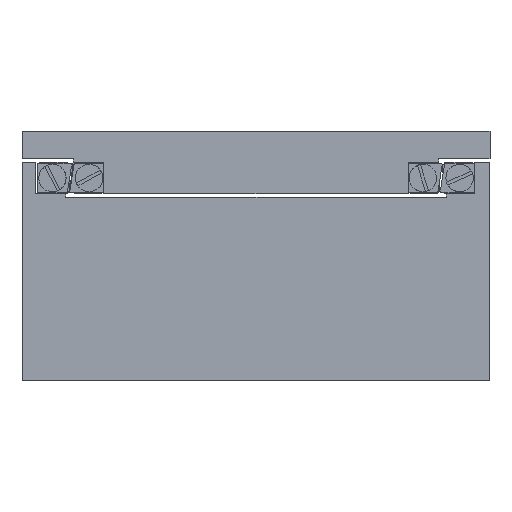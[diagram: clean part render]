
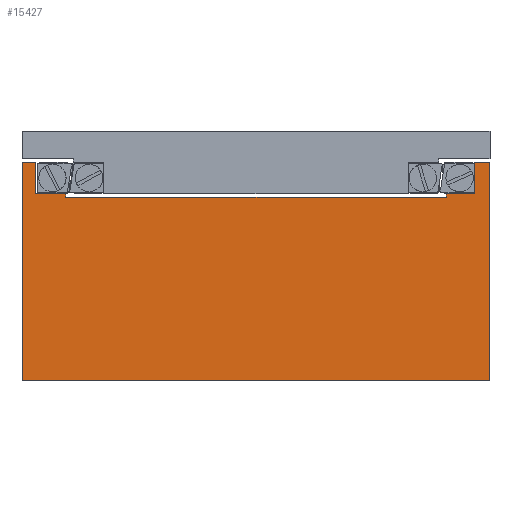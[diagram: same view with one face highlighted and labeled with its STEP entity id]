
A CAD part, front view. The second image highlights one B-rep face of the part: STEP entity #15427.
In plain terms, the highlighted planar face has unit normal (0, -1, 0).
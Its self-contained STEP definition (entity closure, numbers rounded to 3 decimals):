
#2308=FACE_OUTER_BOUND('',#3279,.T.);
#3279=EDGE_LOOP('',(#12247,#12248,#12249,#12250,#12251,#12252,#12253,#12254,
#12255,#12256,#12257,#12258));
#4297=LINE('',#26061,#5373);
#4301=LINE('',#26070,#5377);
#4305=LINE('',#26077,#5381);
#4307=LINE('',#26094,#5383);
#4311=LINE('',#26102,#5387);
#4314=LINE('',#26107,#5390);
#4316=LINE('',#26113,#5392);
#4319=LINE('',#26119,#5395);
#4324=LINE('',#26128,#5400);
#4358=LINE('',#26336,#5434);
#4360=LINE('',#26340,#5436);
#4361=LINE('',#26341,#5437);
#5373=VECTOR('',#20160,10.);
#5377=VECTOR('',#20166,10.);
#5381=VECTOR('',#20172,10.);
#5383=VECTOR('',#20188,10.);
#5387=VECTOR('',#20194,10.);
#5390=VECTOR('',#20199,10.);
#5392=VECTOR('',#20205,10.);
#5395=VECTOR('',#20210,10.);
#5400=VECTOR('',#20217,10.);
#5434=VECTOR('',#20451,10.);
#5436=VECTOR('',#20455,10.);
#5437=VECTOR('',#20456,10.);
#6700=VERTEX_POINT('',#26059);
#6701=VERTEX_POINT('',#26060);
#6704=VERTEX_POINT('',#26068);
#6705=VERTEX_POINT('',#26069);
#6714=VERTEX_POINT('',#26092);
#6715=VERTEX_POINT('',#26093);
#6718=VERTEX_POINT('',#26101);
#6721=VERTEX_POINT('',#26112);
#6723=VERTEX_POINT('',#26118);
#6726=VERTEX_POINT('',#26126);
#6800=VERTEX_POINT('',#26335);
#6801=VERTEX_POINT('',#26339);
#8582=EDGE_CURVE('',#6700,#6701,#4297,.T.);
#8586=EDGE_CURVE('',#6704,#6705,#4301,.T.);
#8590=EDGE_CURVE('',#6701,#6704,#4305,.T.);
#8598=EDGE_CURVE('',#6714,#6715,#4307,.T.);
#8602=EDGE_CURVE('',#6715,#6718,#4311,.T.);
#8605=EDGE_CURVE('',#6718,#6700,#4314,.T.);
#8608=EDGE_CURVE('',#6721,#6714,#4316,.T.);
#8611=EDGE_CURVE('',#6723,#6721,#4319,.T.);
#8616=EDGE_CURVE('',#6705,#6726,#4324,.T.);
#8713=EDGE_CURVE('',#6800,#6723,#4358,.T.);
#8715=EDGE_CURVE('',#6801,#6726,#4360,.T.);
#8716=EDGE_CURVE('',#6800,#6801,#4361,.T.);
#12247=ORIENTED_EDGE('',*,*,#8586,.T.);
#12248=ORIENTED_EDGE('',*,*,#8616,.T.);
#12249=ORIENTED_EDGE('',*,*,#8715,.F.);
#12250=ORIENTED_EDGE('',*,*,#8716,.F.);
#12251=ORIENTED_EDGE('',*,*,#8713,.T.);
#12252=ORIENTED_EDGE('',*,*,#8611,.T.);
#12253=ORIENTED_EDGE('',*,*,#8608,.T.);
#12254=ORIENTED_EDGE('',*,*,#8598,.T.);
#12255=ORIENTED_EDGE('',*,*,#8602,.T.);
#12256=ORIENTED_EDGE('',*,*,#8605,.T.);
#12257=ORIENTED_EDGE('',*,*,#8582,.T.);
#12258=ORIENTED_EDGE('',*,*,#8590,.T.);
#13807=PLANE('',#16927);
#15427=ADVANCED_FACE('',(#2308),#13807,.T.);
#16927=AXIS2_PLACEMENT_3D('',#26338,#20453,#20454);
#20160=DIRECTION('',(0.,0.,1.));
#20166=DIRECTION('',(0.,0.,1.));
#20172=DIRECTION('',(-1.,0.,0.));
#20188=DIRECTION('',(-1.,0.,0.));
#20194=DIRECTION('',(0.,0.,-1.));
#20199=DIRECTION('',(-1.,0.,0.));
#20205=DIRECTION('',(0.,0.,-1.));
#20210=DIRECTION('',(-1.,0.,0.));
#20217=DIRECTION('',(-1.,0.,0.));
#20451=DIRECTION('',(0.,0.,1.));
#20453=DIRECTION('center_axis',(0.,-1.,0.));
#20454=DIRECTION('ref_axis',(0.,0.,-1.));
#20455=DIRECTION('',(0.,0.,1.));
#20456=DIRECTION('',(-1.,0.,0.));
#26059=CARTESIAN_POINT('',(-24.4,-30.,9.5));
#26060=CARTESIAN_POINT('',(-24.4,-30.,10.));
#26061=CARTESIAN_POINT('',(-24.4,-30.,-2.25));
#26068=CARTESIAN_POINT('',(-28.3,-30.,10.));
#26069=CARTESIAN_POINT('',(-28.3,-30.,14.));
#26070=CARTESIAN_POINT('',(-28.3,-30.,-2.));
#26077=CARTESIAN_POINT('',(2.8,-30.,10.));
#26092=CARTESIAN_POINT('',(28.,-30.,10.));
#26093=CARTESIAN_POINT('',(24.4,-30.,10.));
#26094=CARTESIAN_POINT('',(29.,-30.,10.));
#26101=CARTESIAN_POINT('',(24.4,-30.,9.5));
#26102=CARTESIAN_POINT('',(24.4,-30.,-2.));
#26107=CARTESIAN_POINT('',(27.2,-30.,9.5));
#26112=CARTESIAN_POINT('',(28.,-30.,14.));
#26113=CARTESIAN_POINT('',(28.,-30.,0.));
#26118=CARTESIAN_POINT('',(30.,-30.,14.));
#26119=CARTESIAN_POINT('',(30.,-30.,14.));
#26126=CARTESIAN_POINT('',(-30.,-30.,14.));
#26128=CARTESIAN_POINT('',(30.,-30.,14.));
#26335=CARTESIAN_POINT('',(30.,-30.,-14.));
#26336=CARTESIAN_POINT('',(30.,-30.,-14.));
#26338=CARTESIAN_POINT('Origin',(30.,-30.,-14.));
#26339=CARTESIAN_POINT('',(-30.,-30.,-14.));
#26340=CARTESIAN_POINT('',(-30.,-30.,-14.));
#26341=CARTESIAN_POINT('',(30.,-30.,-14.));
